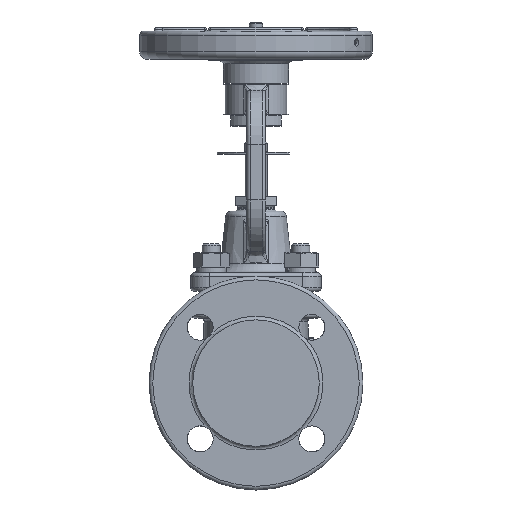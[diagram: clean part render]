
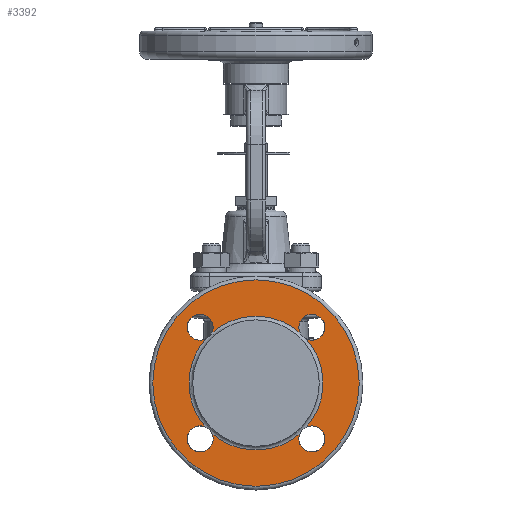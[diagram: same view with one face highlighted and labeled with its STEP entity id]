
A CAD part, front view. The second image highlights one B-rep face of the part: STEP entity #3392.
In plain terms, the highlighted planar face has unit normal (0, -1, 0).
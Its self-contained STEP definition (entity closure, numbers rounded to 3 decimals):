
#1881=PLANE('',#13881);
#3392=ADVANCED_FACE('',(#4436,#4437),#1881,.F.);
#4436=FACE_BOUND('',#4796,.T.);
#4437=FACE_BOUND('',#4797,.T.);
#4796=EDGE_LOOP('',(#5989));
#4797=EDGE_LOOP('',(#5990,#5991,#5992,#5993,#5994,#5995,#5996,#5997));
#5989=ORIENTED_EDGE('',*,*,#11187,.T.);
#5990=ORIENTED_EDGE('',*,*,#11188,.F.);
#5991=ORIENTED_EDGE('',*,*,#11189,.T.);
#5992=ORIENTED_EDGE('',*,*,#11190,.T.);
#5993=ORIENTED_EDGE('',*,*,#11191,.T.);
#5994=ORIENTED_EDGE('',*,*,#11192,.F.);
#5995=ORIENTED_EDGE('',*,*,#11193,.T.);
#5996=ORIENTED_EDGE('',*,*,#11194,.T.);
#5997=ORIENTED_EDGE('',*,*,#11195,.T.);
#9913=VERTEX_POINT('',#19442);
#9914=VERTEX_POINT('',#19444);
#9915=VERTEX_POINT('',#19445);
#9916=VERTEX_POINT('',#19447);
#9917=VERTEX_POINT('',#19449);
#9918=VERTEX_POINT('',#19451);
#9919=VERTEX_POINT('',#19453);
#9920=VERTEX_POINT('',#19455);
#9921=VERTEX_POINT('',#19457);
#11187=EDGE_CURVE('',#9913,#9913,#13104,.T.);
#11188=EDGE_CURVE('',#9914,#9915,#13105,.T.);
#11189=EDGE_CURVE('',#9914,#9916,#13106,.T.);
#11190=EDGE_CURVE('',#9916,#9917,#13107,.T.);
#11191=EDGE_CURVE('',#9917,#9918,#13108,.T.);
#11192=EDGE_CURVE('',#9919,#9918,#13109,.T.);
#11193=EDGE_CURVE('',#9919,#9920,#13110,.T.);
#11194=EDGE_CURVE('',#9920,#9921,#13111,.T.);
#11195=EDGE_CURVE('',#9921,#9915,#13112,.T.);
#13104=CIRCLE('',#13872,55.5);
#13105=CIRCLE('',#13873,7.);
#13106=CIRCLE('',#13874,36.);
#13107=CIRCLE('',#13875,7.);
#13108=CIRCLE('',#13876,36.);
#13109=CIRCLE('',#13877,7.);
#13110=CIRCLE('',#13878,36.);
#13111=CIRCLE('',#13879,7.);
#13112=CIRCLE('',#13880,36.);
#13872=AXIS2_PLACEMENT_3D('',#19441,#15515,#15516);
#13873=AXIS2_PLACEMENT_3D('',#19443,#15517,#15518);
#13874=AXIS2_PLACEMENT_3D('',#19446,#15519,#15520);
#13875=AXIS2_PLACEMENT_3D('',#19448,#15521,#15522);
#13876=AXIS2_PLACEMENT_3D('',#19450,#15523,#15524);
#13877=AXIS2_PLACEMENT_3D('',#19452,#15525,#15526);
#13878=AXIS2_PLACEMENT_3D('',#19454,#15527,#15528);
#13879=AXIS2_PLACEMENT_3D('',#19456,#15529,#15530);
#13880=AXIS2_PLACEMENT_3D('',#19458,#15531,#15532);
#13881=AXIS2_PLACEMENT_3D('',#19459,#15533,#15534);
#15515=DIRECTION('',(0.,-1.,0.));
#15516=DIRECTION('',(-1.,0.,0.));
#15517=DIRECTION('',(0.,-1.,0.));
#15518=DIRECTION('',(-1.,0.,0.));
#15519=DIRECTION('',(0.,1.,0.));
#15520=DIRECTION('',(-1.,0.,0.));
#15521=DIRECTION('',(0.,1.,0.));
#15522=DIRECTION('',(-1.,0.,0.));
#15523=DIRECTION('',(0.,1.,0.));
#15524=DIRECTION('',(-1.,0.,0.));
#15525=DIRECTION('',(0.,-1.,0.));
#15526=DIRECTION('',(-1.,0.,0.));
#15527=DIRECTION('',(0.,1.,0.));
#15528=DIRECTION('',(-1.,0.,0.));
#15529=DIRECTION('',(0.,1.,0.));
#15530=DIRECTION('',(-1.,0.,0.));
#15531=DIRECTION('',(0.,1.,0.));
#15532=DIRECTION('',(-1.,0.,0.));
#15533=DIRECTION('',(0.,1.,0.));
#15534=DIRECTION('',(-1.,0.,0.));
#19441=CARTESIAN_POINT('',(0.,-78.,0.));
#19442=CARTESIAN_POINT('',(-55.5,-78.,0.));
#19443=CARTESIAN_POINT('',(-30.052,-78.,30.052));
#19444=CARTESIAN_POINT('',(-23.71,-78.,27.09));
#19445=CARTESIAN_POINT('',(-27.09,-78.,23.71));
#19446=CARTESIAN_POINT('',(0.,-78.,0.));
#19447=CARTESIAN_POINT('',(23.71,-78.,27.09));
#19448=CARTESIAN_POINT('',(30.052,-78.,30.052));
#19449=CARTESIAN_POINT('',(27.09,-78.,23.71));
#19450=CARTESIAN_POINT('',(0.,-78.,0.));
#19451=CARTESIAN_POINT('',(27.09,-78.,-23.71));
#19452=CARTESIAN_POINT('',(30.052,-78.,-30.052));
#19453=CARTESIAN_POINT('',(23.71,-78.,-27.09));
#19454=CARTESIAN_POINT('',(0.,-78.,0.));
#19455=CARTESIAN_POINT('',(-23.71,-78.,-27.09));
#19456=CARTESIAN_POINT('',(-30.052,-78.,-30.052));
#19457=CARTESIAN_POINT('',(-27.09,-78.,-23.71));
#19458=CARTESIAN_POINT('',(0.,-78.,0.));
#19459=CARTESIAN_POINT('',(0.,-78.,34.));
